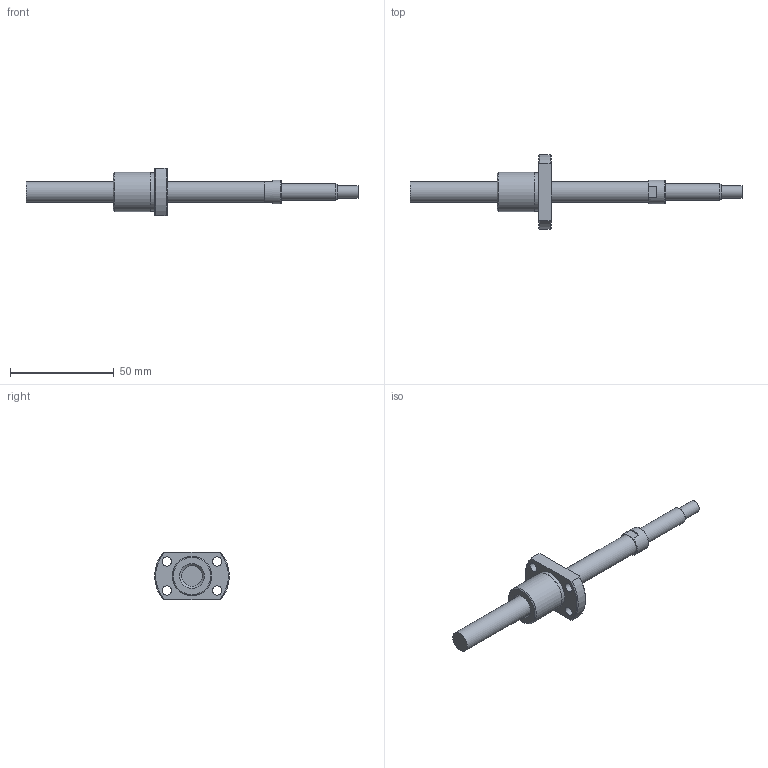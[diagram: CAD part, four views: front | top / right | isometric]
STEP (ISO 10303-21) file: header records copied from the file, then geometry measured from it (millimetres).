
FILE_DESCRIPTION(/* description */ ('STEP AP214'),/* implementation_level */ '2;1');
FILE_NAME(/* name */ 'NSGF1004Z-110R160C3-0-T-S-T-A-(42-S)',/* time_stamp */ '2026-08-24T20:15:11+02:00',/* author */ ('License CC BY-ND 4.0'),/* organization */ ('CADENAS'),/* preprocessor_version */ 'ST-DEVELOPER v20',/* originating_system */ 'PARTsolutions',/* authorisation */ ' ');
FILE_SCHEMA (('AUTOMOTIVE_DESIGN {1 0 10303 214 3 1 1}'));
Length unit declared in the file: millimetre
Products named in the file (3): NSGF1004Z-110R160C3-0-T-S-T-A-(42-S); NSG1004Z-110R16026_(T-S_T-A_2)_2; NSGF1004Z-1
Assembly tree (2 placements, depth 2):
  NSGF1004Z-110R160C3-0-T-S-T-A-(42-S)
    NSG1004Z-110R16026_(T-S_T-A_2)_2
    NSGF1004Z-1
Bounding box: 160 x 36 x 23 mm (x, y, z)
Volume: 18658.5 mm3; surface area: 9232.3 mm2
Topology: 2 solids, 2 shells, 40 faces, 88 edges, 57 vertices
Faces by surface type: plane 17, cylinder 14, cone 8, torus 1
Full cylindrical faces by diameter (mm): 4.5 x4, 6 x1, 8 x1, 10 x2, 11.5 x1, 16 x1, 18.7 x1, 19 x1
Entity records: 1095 total; most frequent: CARTESIAN_POINT 187, DIRECTION 186, ORIENTED_EDGE 134, AXIS2_PLACEMENT_3D 84, EDGE_LOOP 72, FACE_BOUND 72, EDGE_CURVE 67, VERTEX_POINT 53
